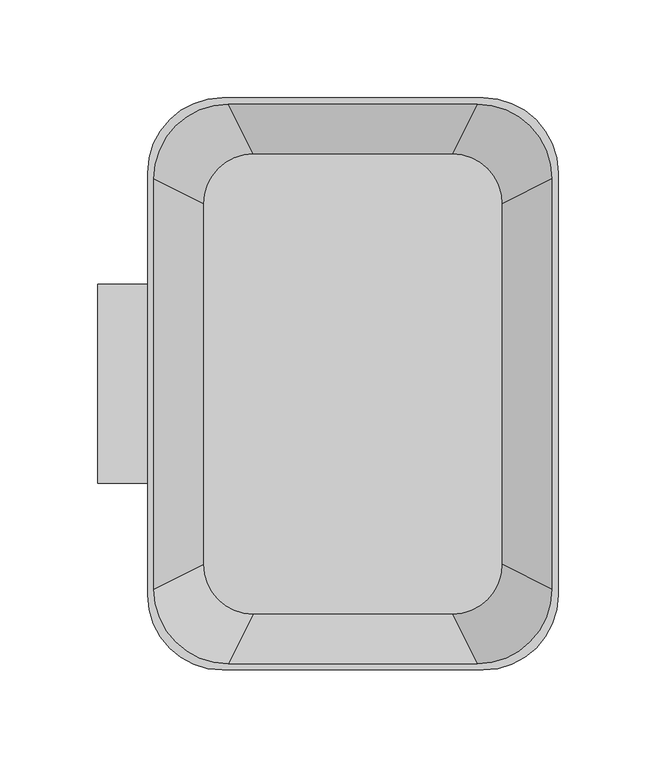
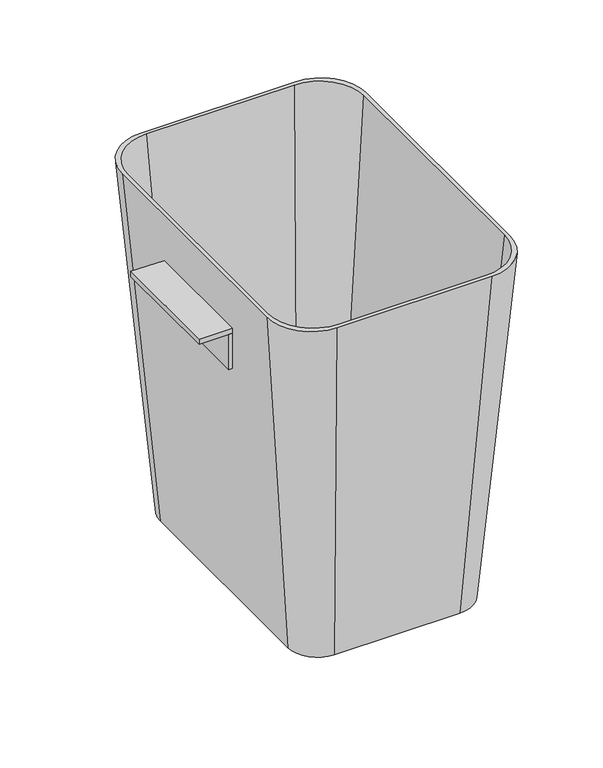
"""IFC4 building model written with IfcOpenShell, lengths in millimetres: furniture geometry, HermanMiller_Carts_CT728_WastebasketAndHolder : 12H x 8D x 11W."""

from ifc_helpers import new_model, si_unit, frame, origin, place, context, project, spatial, polyline, circle_curve, outline, extrude, source, transform, mapped, element, save
from ifc_brep_helpers import plane_surface, spline_surface, advanced_brep


def furniture_beea0197(model_context):
    return source(origin(), model_context, "Body", "SolidModel", [
        extrude(outline(polyline([(-86.0372951, -95.25), (-82.8622951, -95.25), (-82.8622951, -196.85), (-86.0372951, -196.85), (-86.0372951, -95.25)])), frame((0.0, 0.0, 452.628), z_axis=(0.0, 0.0, 1.0), x_axis=(1.0, 0.0, 0.0)), (0.0, 0.0, 1.0), 31.75),
        extrude(outline(polyline([(-82.8622951, -95.25), (-82.8622951, -196.85), (-111.4372951, -196.85), (-111.4372951, -95.25), (-82.8622951, -95.25)])), frame((0.0, 0.0, 484.378), z_axis=(0.0, 0.0, 1.0), x_axis=(1.0, 0.0, 0.0)), (0.0, 0.0, 1.0), 4.7625),
        advanced_brep(
        [(72.7127049, -25.4, 217.678), (98.1127049, -50.8, 217.678), (98.1127049, -241.3, 217.678), (72.7127049, -266.7, 217.678), (-35.2372951, -266.7, 217.678), (-60.6372951, -241.3, 217.678), (-60.6372951, -50.8, 217.678), (-35.2372951, -25.4, 217.678), (85.4127049, 0.0, 535.178), (-47.9372951, 0.0, 535.178), (-86.0372951, -38.1, 535.178), (-86.0372951, -254.0, 535.178), (-47.9372951, -292.1, 535.178), (85.4127049, -292.1, 535.178), (123.5127049, -254.0, 535.178), (123.5127049, -38.1, 535.178), (-44.7622951, -3.175, 535.178), (82.2377049, -3.175, 535.178), (120.3377049, -41.275, 535.178), (120.3377049, -250.825, 535.178), (82.2377049, -288.925, 535.178), (-44.7622951, -288.925, 535.178), (-82.8622951, -250.825, 535.178), (-82.8622951, -41.275, 535.178), (69.5377049, -28.575, 224.028), (-32.0622951, -28.575, 224.028), (-57.4622951, -53.975, 224.028), (-57.4622951, -238.125, 224.028), (-32.0622951, -263.525, 224.028), (69.5377049, -263.525, 224.028), (94.9377049, -238.125, 224.028), (94.9377049, -53.975, 224.028)],
        [
            (0, 1, circle_curve(frame((72.7127049, -50.8, 217.678), z_axis=(0.0, 0.0, -1.0), x_axis=(0.0, -1.0, 0.0)), 25.4)),
            (1, 2),
            (2, 3, circle_curve(frame((72.7127049, -241.3, 217.678), z_axis=(0.0, 0.0, -1.0), x_axis=(0.0, -1.0, 0.0)), 25.4)),
            (3, 4),
            (4, 5, circle_curve(frame((-35.2372951, -241.3, 217.678), z_axis=(0.0, 0.0, -1.0), x_axis=(0.0, -1.0, 0.0)), 25.4)),
            (5, 6),
            (6, 7, circle_curve(frame((-35.2372951, -50.8, 217.678), z_axis=(0.0, 0.0, -1.0), x_axis=(0.0, -1.0, 0.0)), 25.4)),
            (7, 0),
            (8, 9),
            (9, 10, circle_curve(frame((-47.9372951, -38.1, 535.178), z_axis=(0.0, 0.0, 1.0), x_axis=(0.0, -1.0, 0.0)), 38.1)),
            (10, 11),
            (11, 12, circle_curve(frame((-47.9372951, -254.0, 535.178), z_axis=(0.0, 0.0, 1.0), x_axis=(0.0, -1.0, 0.0)), 38.1)),
            (12, 13),
            (13, 14, circle_curve(frame((85.4127049, -254.0, 535.178), z_axis=(0.0, 0.0, 1.0), x_axis=(0.0, -1.0, 0.0)), 38.1)),
            (14, 15),
            (15, 8, circle_curve(frame((85.4127049, -38.1, 535.178), z_axis=(0.0, 0.0, 1.0), x_axis=(0.0, -1.0, 0.0)), 38.1)),
            (16, 17),
            (17, 18, circle_curve(frame((82.2377049, -41.275, 535.178), z_axis=(0.0, 0.0, -1.0), x_axis=(-1.0, 0.0, 0.0)), 38.1)),
            (18, 19),
            (19, 20, circle_curve(frame((82.2377049, -250.825, 535.178), z_axis=(0.0, 0.0, -1.0), x_axis=(-1.0, 0.0, 0.0)), 38.1)),
            (20, 21),
            (21, 22, circle_curve(frame((-44.7622951, -250.825, 535.178), z_axis=(0.0, 0.0, -1.0), x_axis=(-1.0, 0.0, 0.0)), 38.1)),
            (22, 23),
            (23, 16, circle_curve(frame((-44.7622951, -41.275, 535.178), z_axis=(0.0, 0.0, -1.0), x_axis=(-1.0, 0.0, 0.0)), 38.1)),
            (7, 9),
            (8, 0),
            (6, 10),
            (5, 11),
            (4, 12),
            (3, 13),
            (2, 14),
            (1, 15),
            (24, 25),
            (25, 26, circle_curve(frame((-32.0622951, -53.975, 224.028), z_axis=(0.0, 0.0, 1.0), x_axis=(-1.0, 0.0, 0.0)), 25.4)),
            (26, 27),
            (27, 28, circle_curve(frame((-32.0622951, -238.125, 224.028), z_axis=(0.0, 0.0, 1.0), x_axis=(-1.0, 0.0, 0.0)), 25.4)),
            (28, 29),
            (29, 30, circle_curve(frame((69.5377049, -238.125, 224.028), z_axis=(0.0, 0.0, 1.0), x_axis=(-1.0, 0.0, 0.0)), 25.4)),
            (30, 31),
            (31, 24, circle_curve(frame((69.5377049, -53.975, 224.028), z_axis=(0.0, 0.0, 1.0), x_axis=(-1.0, 0.0, 0.0)), 25.4)),
            (24, 17),
            (16, 25),
            (23, 26),
            (22, 27),
            (21, 28),
            (20, 29),
            (19, 30),
            (18, 31),
        ],
        [
            plane_surface(frame((18.7377049, -146.05, 217.678), z_axis=(0.0, 0.0, -1.0), x_axis=(-1.0, 0.0, 0.0))),
            plane_surface(frame((18.7377049, -146.05, 535.178), z_axis=(0.0, 0.0, 1.0), x_axis=(-1.0, 0.0, 0.0))),
            plane_surface(frame((18.7377049, 0.0, 535.178), z_axis=(0.0, 0.9968152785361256, -0.07974522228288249), x_axis=(1.0, 0.0, 0.0))),
            spline_surface(2, 1, [[(-86.0372951, -38.1, 535.178), (-60.6372951, -50.8, 217.678)], [(-86.0372951, -7.105427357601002e-15, 535.178), (-60.637295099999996, -25.39999999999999, 217.678)], [(-47.9372951, 0.0, 535.178), (-35.2372951, -25.4, 217.678)]], [3, 3], [2, 2], [0.0, 1.0], [0.0, 1.0], weights=[[1.0, 1.0], [0.7071067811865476, 0.7071067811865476], [1.0, 1.0]]),
            plane_surface(frame((-86.0372951, -146.05, 535.178), z_axis=(-0.9968152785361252, 0.0, -0.07974522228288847), x_axis=(0.0, 1.0, 0.0))),
            spline_surface(2, 1, [[(-47.9372951, -292.1, 535.178), (-35.2372951, -266.7, 217.678)], [(-86.03729510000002, -292.1000000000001, 535.178), (-60.637295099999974, -266.7, 217.678)], [(-86.0372951, -254.0, 535.178), (-60.6372951, -241.3, 217.678)]], [3, 3], [2, 2], [0.0, 1.0], [0.0, 1.0], weights=[[1.0, 1.0], [0.7071067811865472, 0.7071067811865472], [1.0, 1.0]]),
            plane_surface(frame((18.7377049, -292.1, 535.178), z_axis=(0.0, -0.9968152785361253, -0.07974522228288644), x_axis=(-1.0, 0.0, 0.0))),
            spline_surface(2, 1, [[(123.5127049, -254.0, 535.178), (98.1127049, -241.3, 217.678)], [(123.51270489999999, -292.1, 535.178), (98.11270489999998, -266.7, 217.678)], [(85.4127049, -292.1, 535.178), (72.7127049, -266.7, 217.678)]], [3, 3], [2, 2], [0.0, 1.0], [0.0, 1.0], weights=[[1.0, 1.0], [0.7071067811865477, 0.7071067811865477], [1.0, 1.0]]),
            plane_surface(frame((123.5127049, -146.05, 535.178), z_axis=(0.9968152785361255, 0.0, -0.07974522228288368), x_axis=(0.0, -1.0, 0.0))),
            spline_surface(2, 1, [[(85.4127049, 0.0, 535.178), (72.7127049, -25.4, 217.678)], [(123.51270489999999, -7.105427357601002e-15, 535.178), (98.11270490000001, -25.400000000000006, 217.678)], [(123.5127049, -38.1, 535.178), (98.1127049, -50.8, 217.678)]], [3, 3], [2, 2], [0.0, 1.0], [0.0, 1.0], weights=[[1.0, 1.0], [0.7071067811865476, 0.7071067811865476], [1.0, 1.0]]),
            plane_surface(frame((18.7377049, -146.05, 224.028), z_axis=(0.0, 0.0, 1.0), x_axis=(-1.0, 0.0, 0.0))),
            plane_surface(frame((18.7377049, -3.175, 535.178), z_axis=(0.0, -0.9966846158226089, 0.08136200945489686), x_axis=(1.0, 0.0, 0.0))),
            spline_surface(1, 2, [[(-82.8622951, -41.275, 535.178), (-82.86229509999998, -3.1750000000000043, 535.178), (-44.7622951, -3.175, 535.178)], [(-57.4622951, -53.975, 224.028), (-57.46229509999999, -28.575000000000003, 224.028), (-32.0622951, -28.575, 224.028)]], [2, 2], [3, 3], [0.0, 1.0], [0.0, 1.0], weights=[[1.0, 0.7071067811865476, 1.0], [1.0, 0.7071067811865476, 1.0]]),
            plane_surface(frame((-82.8622951, -146.05, 535.178), z_axis=(0.9966846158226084, 0.0, 0.0813620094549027), x_axis=(0.0, 1.0, 0.0))),
            spline_surface(1, 2, [[(-44.7622951, -288.925, 535.178), (-82.86229510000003, -288.92500000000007, 535.178), (-82.8622951, -250.825, 535.178)], [(-32.0622951, -263.525, 224.028), (-57.46229509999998, -263.525, 224.028), (-57.4622951, -238.125, 224.028)]], [2, 2], [3, 3], [0.0, 1.0], [0.0, 1.0], weights=[[1.0, 0.7071067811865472, 1.0], [1.0, 0.7071067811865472, 1.0]]),
            plane_surface(frame((18.7377049, -288.925, 535.178), z_axis=(0.0, 0.9966846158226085, 0.0813620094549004), x_axis=(-1.0, 0.0, 0.0))),
            spline_surface(1, 2, [[(120.3377049, -250.825, 535.178), (120.33770489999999, -288.925, 535.178), (82.2377049, -288.925, 535.178)], [(94.9377049, -238.125, 224.028), (94.93770489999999, -263.525, 224.028), (69.5377049, -263.525, 224.028)]], [2, 2], [3, 3], [0.0, 1.0], [0.0, 1.0], weights=[[1.0, 0.7071067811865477, 1.0], [1.0, 0.7071067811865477, 1.0]]),
            plane_surface(frame((120.3377049, -146.05, 535.178), z_axis=(-0.9966846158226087, 0.0, 0.08136200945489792), x_axis=(0.0, -1.0, 0.0))),
            spline_surface(1, 2, [[(82.2377049, -3.175, 535.178), (120.3377049, -3.1750000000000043, 535.178), (120.3377049, -41.275, 535.178)], [(69.5377049, -28.575, 224.028), (94.9377049, -28.575000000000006, 224.028), (94.9377049, -53.975, 224.028)]], [2, 2], [3, 3], [0.0, 1.0], [0.0, 1.0], weights=[[1.0, 0.7071067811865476, 1.0], [1.0, 0.7071067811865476, 1.0]]),
        ],
        [
            (0, [[1, 2, 3, 4, 5, 6, 7, 8]]),
            (1, [[9, 10, 11, 12, 13, 14, 15, 16], [17, 18, 19, 20, 21, 22, 23, 24]]),
            (2, [[-8, 25, -9, 26]]),
            (3, [[-7, 27, -10, -25]]),
            (4, [[-6, 28, -11, -27]]),
            (5, [[-5, 29, -12, -28]]),
            (6, [[-4, 30, -13, -29]]),
            (7, [[-3, 31, -14, -30]]),
            (8, [[-2, 32, -15, -31]]),
            (9, [[-1, -26, -16, -32]]),
            (10, [[33, 34, 35, 36, 37, 38, 39, 40]]),
            (11, [[-33, 41, -17, 42]]),
            (12, [[-34, -42, -24, 43]]),
            (13, [[-35, -43, -23, 44]]),
            (14, [[-36, -44, -22, 45]]),
            (15, [[-37, -45, -21, 46]]),
            (16, [[-38, -46, -20, 47]]),
            (17, [[-39, -47, -19, 48]]),
            (18, [[-40, -48, -18, -41]]),
        ],
    ),
    ])


if __name__ == "__main__":
    model = new_model("IFC4")
    model_context = context("Model", 3, world=origin())
    ifc_project = project(units=[si_unit("LENGTHUNIT", "METRE", prefix="MILLI")], contexts=[model_context])
    site = spatial("IfcSite", under=ifc_project)
    building = spatial("IfcBuilding", under=site)
    placement = place(None, origin())
    furniture_shape = furniture_beea0197(model_context)
    element("IfcFurniture", 1, ObjectType="HermanMiller_Carts_CT728_WastebasketAndHolder : 12H x 8D x 11W", at=placement, inside=building, context=model_context, shape_type="MappedRepresentation", body=[
        mapped(furniture_shape, transform((0.0, 0.0, 0.0), x_axis=(1.0, 0.0, 0.0), y_axis=(0.0, 1.0, 0.0), z_axis=(0.0, 0.0, 1.0))),
    ])
    save(model, "model.ifc")
